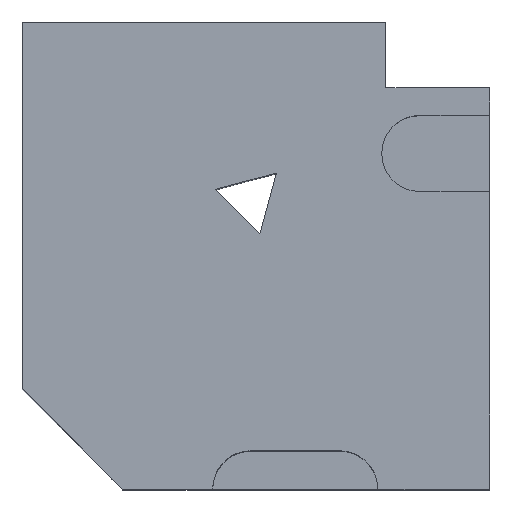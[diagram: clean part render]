
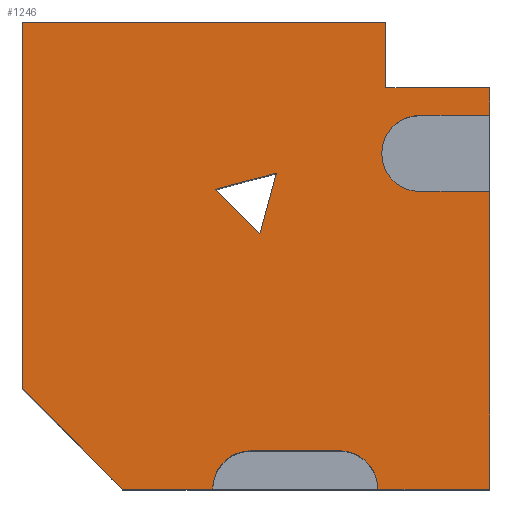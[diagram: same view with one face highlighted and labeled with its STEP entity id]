
A CAD part, top view. The second image highlights one B-rep face of the part: STEP entity #1246.
In plain terms, the highlighted planar face has unit normal (0, 0, 1).
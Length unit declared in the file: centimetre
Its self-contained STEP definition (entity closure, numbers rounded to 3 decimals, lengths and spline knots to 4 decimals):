
#4 = VECTOR ( 'NONE', #1221, 100. ) ;
#19 = LINE ( 'NONE', #249, #1096 ) ;
#20 = VECTOR ( 'NONE', #708, 100. ) ;
#43 = CARTESIAN_POINT ( 'NONE',  ( 489.6384, 82.3331, 1000. ) ) ;
#58 = LINE ( 'NONE', #548, #377 ) ;
#59 = AXIS2_PLACEMENT_3D ( 'NONE', #479, #1227, #265 ) ;
#76 = CARTESIAN_POINT ( 'NONE',  ( 678.4115, 82.3331, 1000. ) ) ;
#82 = ORIENTED_EDGE ( 'NONE', *, *, #624, .T. ) ;
#108 = LINE ( 'NONE', #995, #378 ) ;
#113 = EDGE_CURVE ( 'NONE', #1013, #738, #1168, .T. ) ;
#119 = CARTESIAN_POINT ( 'NONE',  ( 413.1012, 641.9529, 1000. ) ) ;
#121 = FACE_OUTER_BOUND ( 'NONE', #941, .T. ) ;
#127 = DIRECTION ( 'NONE',  ( 1., 0., 0. ) ) ;
#131 = CARTESIAN_POINT ( 'NONE',  ( 850.4913, 718.6532, 1000. ) ) ;
#133 = LINE ( 'NONE', #536, #597 ) ;
#138 = FACE_BOUND ( 'NONE', #590, .T. ) ;
#141 = VECTOR ( 'NONE', #704, 100. ) ;
#151 = DIRECTION ( 'NONE',  ( -1., 0., 0. ) ) ;
#157 = ORIENTED_EDGE ( 'NONE', *, *, #310, .T. ) ;
#168 = VERTEX_POINT ( 'NONE', #991 ) ;
#193 = DIRECTION ( 'NONE',  ( 0., 1., 0. ) ) ;
#218 = CARTESIAN_POINT ( 'NONE',  ( 0., 0., 1000. ) ) ;
#223 = EDGE_CURVE ( 'NONE', #992, #799, #1190, .T. ) ;
#231 = VERTEX_POINT ( 'NONE', #442 ) ;
#239 = CARTESIAN_POINT ( 'NONE',  ( 850.4913, 637.3024, 1000. ) ) ;
#249 = CARTESIAN_POINT ( 'NONE',  ( 508.4315, 546.323, 1000. ) ) ;
#253 = CARTESIAN_POINT ( 'NONE',  ( 778.1358, 859.6501, 1000. ) ) ;
#259 = EDGE_CURVE ( 'NONE', #698, #738, #657, .T. ) ;
#265 = DIRECTION ( 'NONE',  ( 1., 0., 0. ) ) ;
#282 = EDGE_CURVE ( 'NONE', #1223, #712, #1017, .T. ) ;
#299 = CIRCLE ( 'NONE', #1002, 82.3331 ) ;
#309 = LINE ( 'NONE', #1184, #141 ) ;
#310 = EDGE_CURVE ( 'NONE', #1149, #231, #649, .T. ) ;
#313 = VECTOR ( 'NONE', #151, 100. ) ;
#319 = DIRECTION ( 'NONE',  ( 0.707, -0.707, 0. ) ) ;
#322 = EDGE_CURVE ( 'NONE', #931, #712, #299, .T. ) ;
#326 = AXIS2_PLACEMENT_3D ( 'NONE', #218, #607, #612 ) ;
#327 = ORIENTED_EDGE ( 'NONE', *, *, #282, .T. ) ;
#338 = CARTESIAN_POINT ( 'NONE',  ( 413.1012, 641.9529, 1000. ) ) ;
#353 = DIRECTION ( 'NONE',  ( 0., 1., 0. ) ) ;
#362 = DIRECTION ( 'NONE',  ( -0.966, -0.257, 0. ) ) ;
#370 = ORIENTED_EDGE ( 'NONE', *, *, #860, .F. ) ;
#377 = VECTOR ( 'NONE', #362, 100. ) ;
#378 = VECTOR ( 'NONE', #420, 100. ) ;
#379 = ORIENTED_EDGE ( 'NONE', *, *, #259, .T. ) ;
#392 = CARTESIAN_POINT ( 'NONE',  ( 1000., 637.3024, 1000. ) ) ;
#410 = LINE ( 'NONE', #500, #20 ) ;
#411 = EDGE_CURVE ( 'NONE', #466, #931, #512, .T. ) ;
#414 = CIRCLE ( 'NONE', #59, 82.3331 ) ;
#420 = DIRECTION ( 'NONE',  ( 0., 1., 0. ) ) ;
#434 = CARTESIAN_POINT ( 'NONE',  ( 1000., 1000., 1000. ) ) ;
#442 = CARTESIAN_POINT ( 'NONE',  ( 778.1358, 859.6501, 1000. ) ) ;
#455 = CARTESIAN_POINT ( 'NONE',  ( 543.5842, 676.6964, 1000. ) ) ;
#463 = CARTESIAN_POINT ( 'NONE',  ( 489.6384, 0., 1000. ) ) ;
#466 = VERTEX_POINT ( 'NONE', #76 ) ;
#468 = VERTEX_POINT ( 'NONE', #1037 ) ;
#479 = CARTESIAN_POINT ( 'NONE',  ( 678.4115, 0., 1000. ) ) ;
#497 = EDGE_CURVE ( 'NONE', #1035, #466, #414, .T. ) ;
#500 = CARTESIAN_POINT ( 'NONE',  ( 1000., 800.0041, 1000. ) ) ;
#503 = ORIENTED_EDGE ( 'NONE', *, *, #1180, .T. ) ;
#512 = LINE ( 'NONE', #897, #313 ) ;
#525 = DIRECTION ( 'NONE',  ( 0., -1., 0. ) ) ;
#527 = DIRECTION ( 'NONE',  ( -1., 0., 0. ) ) ;
#536 = CARTESIAN_POINT ( 'NONE',  ( 0., 1000., 1000. ) ) ;
#548 = CARTESIAN_POINT ( 'NONE',  ( 543.5842, 676.6964, 1000. ) ) ;
#577 = CARTESIAN_POINT ( 'NONE',  ( 0., 1000., 1000. ) ) ;
#586 = CARTESIAN_POINT ( 'NONE',  ( 407.3053, 0., 1000. ) ) ;
#590 = EDGE_LOOP ( 'NONE', ( #764, #1145, #967 ) ) ;
#597 = VECTOR ( 'NONE', #822, 100. ) ;
#607 = DIRECTION ( 'NONE',  ( 0., 0., 1. ) ) ;
#612 = DIRECTION ( 'NONE',  ( 1., 0., 0. ) ) ;
#615 = VECTOR ( 'NONE', #319, 100. ) ;
#618 = CARTESIAN_POINT ( 'NONE',  ( 1000., 859.6501, 1000. ) ) ;
#624 = EDGE_CURVE ( 'NONE', #893, #1089, #133, .T. ) ;
#649 = LINE ( 'NONE', #253, #679 ) ;
#657 = LINE ( 'NONE', #434, #1217 ) ;
#659 = EDGE_CURVE ( 'NONE', #898, #992, #58, .T. ) ;
#664 = ORIENTED_EDGE ( 'NONE', *, *, #497, .F. ) ;
#679 = VECTOR ( 'NONE', #527, 100. ) ;
#689 = CARTESIAN_POINT ( 'NONE',  ( 850.4913, 637.3024, 1000. ) ) ;
#691 = ORIENTED_EDGE ( 'NONE', *, *, #322, .F. ) ;
#698 = VERTEX_POINT ( 'NONE', #1238 ) ;
#699 = LINE ( 'NONE', #875, #836 ) ;
#704 = DIRECTION ( 'NONE',  ( 1., 0., 0. ) ) ;
#708 = DIRECTION ( 'NONE',  ( -1., 0., 0. ) ) ;
#712 = VERTEX_POINT ( 'NONE', #586 ) ;
#713 = LINE ( 'NONE', #993, #1159 ) ;
#718 = ORIENTED_EDGE ( 'NONE', *, *, #1143, .T. ) ;
#722 = DIRECTION ( 'NONE',  ( 1., 0., 0. ) ) ;
#738 = VERTEX_POINT ( 'NONE', #392 ) ;
#745 = DIRECTION ( 'NONE',  ( 0., 0., 1. ) ) ;
#764 = ORIENTED_EDGE ( 'NONE', *, *, #223, .F. ) ;
#779 = VERTEX_POINT ( 'NONE', #887 ) ;
#787 = EDGE_CURVE ( 'NONE', #1035, #698, #309, .T. ) ;
#799 = VERTEX_POINT ( 'NONE', #891 ) ;
#800 = LINE ( 'NONE', #1199, #615 ) ;
#808 = EDGE_CURVE ( 'NONE', #168, #779, #410, .T. ) ;
#822 = DIRECTION ( 'NONE',  ( -1., 0., 0. ) ) ;
#827 = CARTESIAN_POINT ( 'NONE',  ( 0., 0., 1000. ) ) ;
#836 = VECTOR ( 'NONE', #193, 100. ) ;
#838 = ORIENTED_EDGE ( 'NONE', *, *, #1108, .T. ) ;
#860 = EDGE_CURVE ( 'NONE', #779, #1013, #909, .T. ) ;
#871 = ORIENTED_EDGE ( 'NONE', *, *, #787, .T. ) ;
#875 = CARTESIAN_POINT ( 'NONE',  ( 1000., 1000., 1000. ) ) ;
#887 = CARTESIAN_POINT ( 'NONE',  ( 850.4913, 800.0041, 1000. ) ) ;
#891 = CARTESIAN_POINT ( 'NONE',  ( 508.4315, 546.323, 1000. ) ) ;
#893 = VERTEX_POINT ( 'NONE', #1006 ) ;
#896 = VECTOR ( 'NONE', #1107, 100. ) ;
#897 = CARTESIAN_POINT ( 'NONE',  ( 678.4115, 82.3331, 1000. ) ) ;
#898 = VERTEX_POINT ( 'NONE', #455 ) ;
#901 = DIRECTION ( 'NONE',  ( 0., 0., 1. ) ) ;
#909 = CIRCLE ( 'NONE', #1118, 81.3509 ) ;
#931 = VERTEX_POINT ( 'NONE', #43 ) ;
#941 = EDGE_LOOP ( 'NONE', ( #1232, #82, #718, #503, #327, #691, #1242, #664, #871, #379, #1210, #370, #1151, #838, #157 ) ) ;
#967 = ORIENTED_EDGE ( 'NONE', *, *, #1012, .F. ) ;
#991 = CARTESIAN_POINT ( 'NONE',  ( 1000., 800.0041, 1000. ) ) ;
#992 = VERTEX_POINT ( 'NONE', #119 ) ;
#993 = CARTESIAN_POINT ( 'NONE',  ( 0., 1000., 1000. ) ) ;
#995 = CARTESIAN_POINT ( 'NONE',  ( 778.1358, 859.6501, 1000. ) ) ;
#1002 = AXIS2_PLACEMENT_3D ( 'NONE', #463, #745, #722 ) ;
#1003 = CARTESIAN_POINT ( 'NONE',  ( 760.7446, 0., 1000. ) ) ;
#1006 = CARTESIAN_POINT ( 'NONE',  ( 778.1358, 1000., 1000. ) ) ;
#1012 = EDGE_CURVE ( 'NONE', #799, #898, #19, .T. ) ;
#1013 = VERTEX_POINT ( 'NONE', #239 ) ;
#1017 = LINE ( 'NONE', #827, #4 ) ;
#1029 = DIRECTION ( 'NONE',  ( 0.26, 0.966, 0. ) ) ;
#1035 = VERTEX_POINT ( 'NONE', #1003 ) ;
#1037 = CARTESIAN_POINT ( 'NONE',  ( 0., 215.0506, 1000. ) ) ;
#1072 = EDGE_CURVE ( 'NONE', #231, #893, #108, .T. ) ;
#1089 = VERTEX_POINT ( 'NONE', #577 ) ;
#1090 = PLANE ( 'NONE',  #326 ) ;
#1094 = DIRECTION ( 'NONE',  ( 1., 0., 0. ) ) ;
#1096 = VECTOR ( 'NONE', #1029, 100. ) ;
#1099 = CARTESIAN_POINT ( 'NONE',  ( 215.0506, 0., 1000. ) ) ;
#1107 = DIRECTION ( 'NONE',  ( 0.706, -0.708, 0. ) ) ;
#1108 = EDGE_CURVE ( 'NONE', #168, #1149, #699, .T. ) ;
#1118 = AXIS2_PLACEMENT_3D ( 'NONE', #131, #901, #1094 ) ;
#1119 = VECTOR ( 'NONE', #127, 100. ) ;
#1143 = EDGE_CURVE ( 'NONE', #1089, #468, #713, .T. ) ;
#1145 = ORIENTED_EDGE ( 'NONE', *, *, #659, .F. ) ;
#1149 = VERTEX_POINT ( 'NONE', #618 ) ;
#1151 = ORIENTED_EDGE ( 'NONE', *, *, #808, .F. ) ;
#1159 = VECTOR ( 'NONE', #525, 100. ) ;
#1168 = LINE ( 'NONE', #689, #1119 ) ;
#1180 = EDGE_CURVE ( 'NONE', #468, #1223, #800, .T. ) ;
#1184 = CARTESIAN_POINT ( 'NONE',  ( 0., 0., 1000. ) ) ;
#1190 = LINE ( 'NONE', #338, #896 ) ;
#1199 = CARTESIAN_POINT ( 'NONE',  ( 107.5253, 107.5253, 1000. ) ) ;
#1210 = ORIENTED_EDGE ( 'NONE', *, *, #113, .F. ) ;
#1217 = VECTOR ( 'NONE', #353, 100. ) ;
#1221 = DIRECTION ( 'NONE',  ( 1., 0., 0. ) ) ;
#1223 = VERTEX_POINT ( 'NONE', #1099 ) ;
#1227 = DIRECTION ( 'NONE',  ( 0., 0., 1. ) ) ;
#1232 = ORIENTED_EDGE ( 'NONE', *, *, #1072, .T. ) ;
#1238 = CARTESIAN_POINT ( 'NONE',  ( 1000., 0., 1000. ) ) ;
#1242 = ORIENTED_EDGE ( 'NONE', *, *, #411, .F. ) ;
#1246 = ADVANCED_FACE ( 'NONE', ( #121, #138 ), #1090, .T. ) ;
